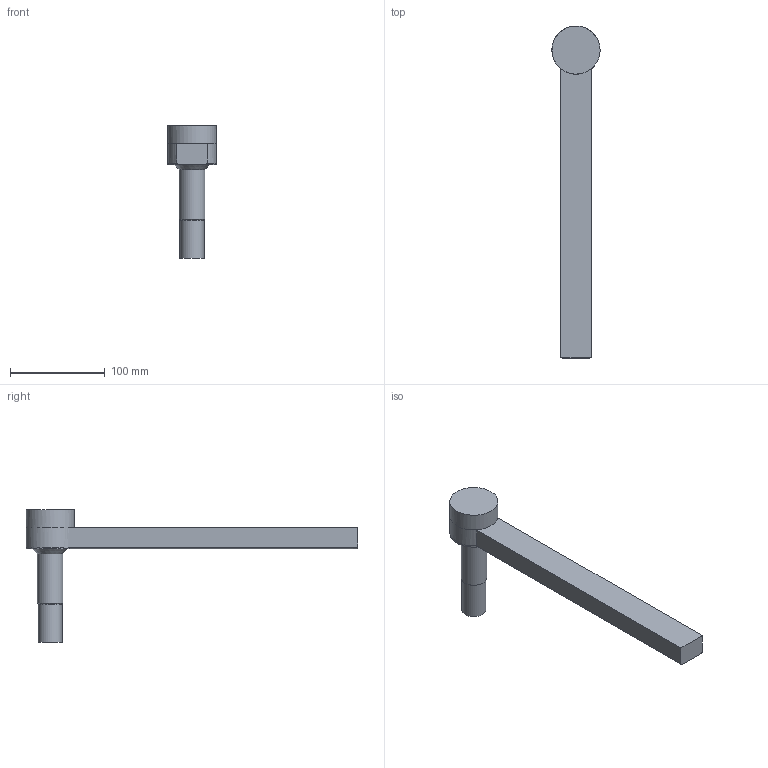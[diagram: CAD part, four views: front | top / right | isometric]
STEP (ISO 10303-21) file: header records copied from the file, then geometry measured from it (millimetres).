
FILE_DESCRIPTION(/* description */ (''),/* implementation_level */ '2;1');
FILE_NAME(/* name */ 'B06113TRUPas.stp',/* time_stamp */ '2019-10-03T08:35:33-04:00',/* author */ (''),/* organization */ (''),/* preprocessor_version */ 'ST-DEVELOPER v16',/* originating_system */ 'SIEMENS PLM Software NX 11.0',/* authorisation */ '');
FILE_SCHEMA (('AUTOMOTIVE_DESIGN { 1 0 10303 214 3 1 1 1 }'));
Length unit declared in the file: inch
Products named in the file (3): B06XX_SubSolid; B06113TRUPd; B06113TRUPas
Assembly tree (2 placements, depth 2):
  B06113TRUPas
    B06113TRUPd
    B06XX_SubSolid
Bounding box: 50.91 x 350.87 x 140.49 mm (x, y, z)
Volume: 431159.8 mm3; surface area: 70776.1 mm2
Topology: 2 solids, 3 shells, 35 faces, 74 edges, 46 vertices
Faces by surface type: plane 13, cylinder 10, cone 6, torus 4, sphere 1, revolution 1
Full cylindrical faces by diameter (mm): 8.731 x2, 25.4 x2, 26.987 x1, 50.927 x1
Entity records: 894 total; most frequent: CARTESIAN_POINT 170, DIRECTION 146, ORIENTED_EDGE 98, AXIS2_PLACEMENT_3D 64, EDGE_LOOP 56, EDGE_CURVE 49, FACE_BOUND 47, VERTEX_POINT 41
